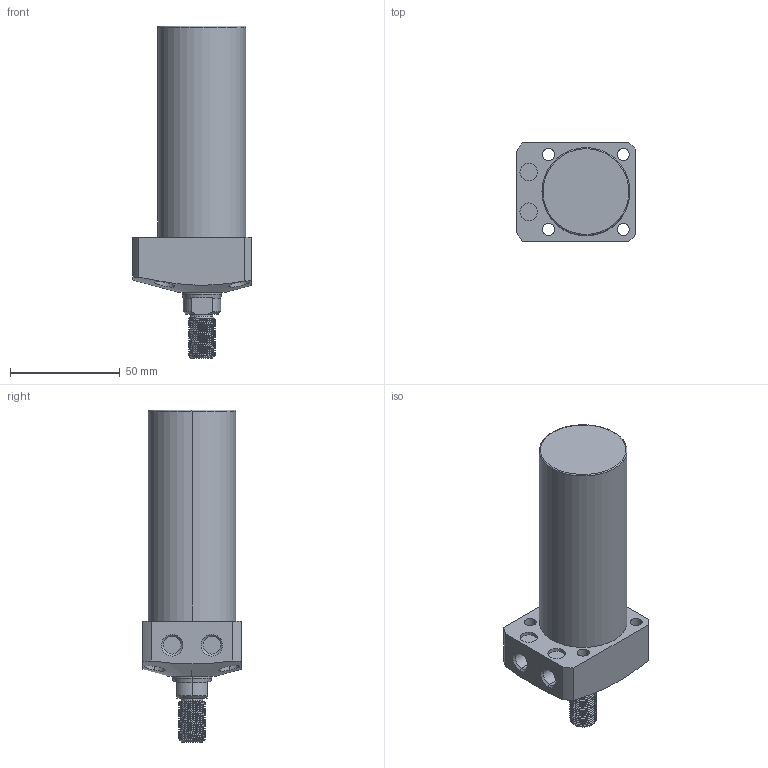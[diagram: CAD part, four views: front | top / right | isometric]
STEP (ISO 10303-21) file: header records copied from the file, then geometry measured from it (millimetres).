
FILE_DESCRIPTION (( 'STEP AP203' ), '1' );
FILE_NAME ('CLL-040CT-070.STEP', '2020-01-08T09:06:14', ( '' ), ( '' ), 'SwSTEP 2.0', 'SolidWorks 2015', '' );
FILE_SCHEMA (( 'CONFIG_CONTROL_DESIGN' ));
Length unit declared in the file: millimetre
Products named in the file (1): CLL-040CT-070
Bounding box: 54 x 45 x 151 mm (x, y, z)
Volume: 174301.9 mm3; surface area: 24945.4 mm2
Topology: 1 solids, 1 shells, 116 faces, 294 edges, 191 vertices
Faces by surface type: cylinder 71, plane 24, cone 17, torus 2, bspline 2
Entity records: 5893 total; most frequent: CARTESIAN_POINT 3204, ORIENTED_EDGE 588, DIRECTION 506, EDGE_CURVE 294, AXIS2_PLACEMENT_3D 200, VERTEX_POINT 191, EDGE_LOOP 135, FACE_OUTER_BOUND 116
